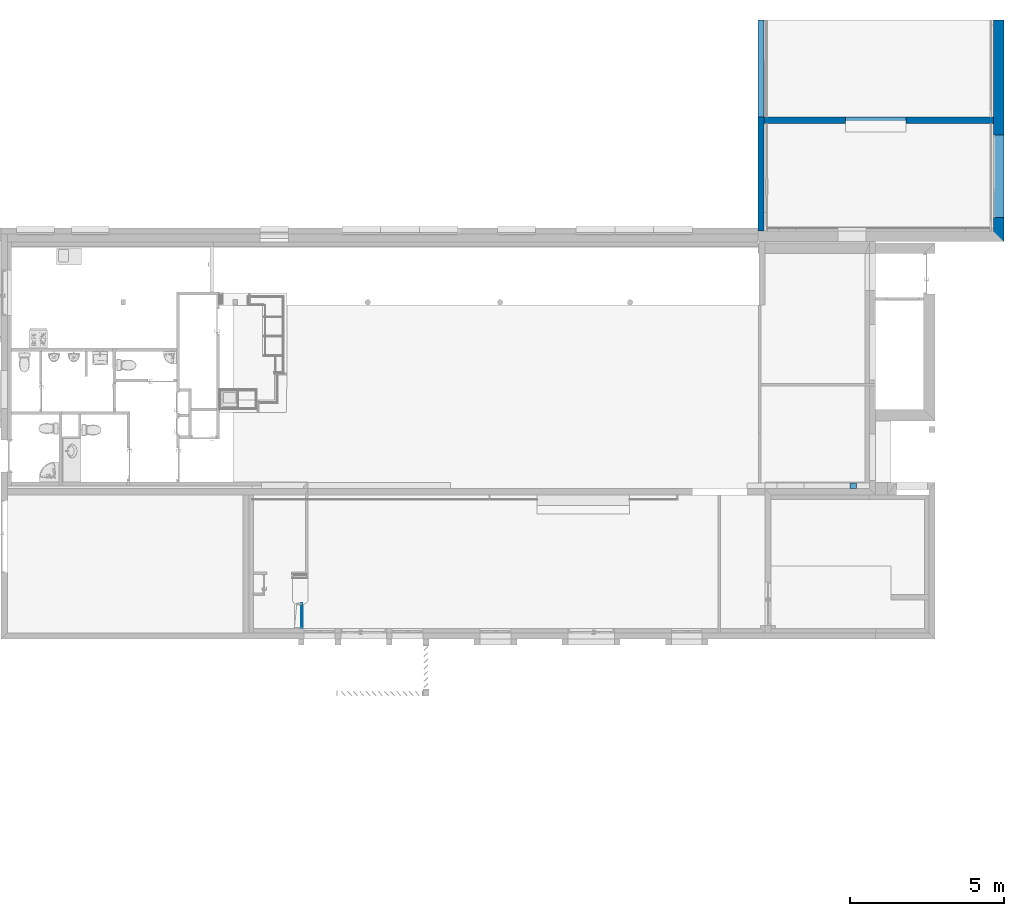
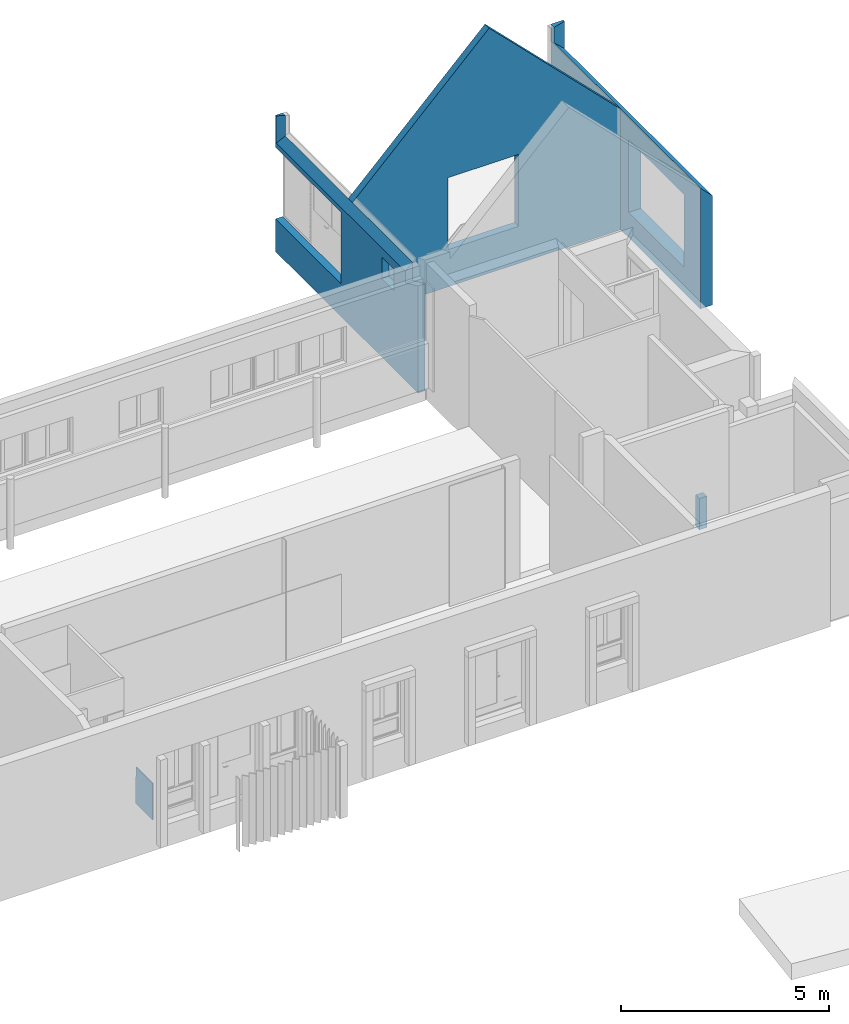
# One storey, part 13 of 34: 5 walls, 5 openings.
"""IFC2X3 building model written with IfcOpenShell, lengths in metres."""

from ifc_helpers import new_model, entity, si_unit, converted_unit, derived_unit, money_unit, direction, frame, origin_with_axes, origin_2d_with_axis, place, context, subcontext, project, spatial, polyline, rectangle, outline, extrude, boolean, clip, bounded_halfspace, faceted_brep, material, layer, layer_set, layer_usage, type_object, element, save


model = new_model("IFC2X3")

# Units and contexts
model_context = context("Model", 3, precision=1e-05, world=origin_with_axes(), true_north=direction((0.0, 1.0)))
body_context = subcontext(model_context, "Body", "Model", "MODEL_VIEW")
ifc_project = project(units=[si_unit("LENGTHUNIT", "METRE"), si_unit("AREAUNIT", "SQUARE_METRE"), si_unit("VOLUMEUNIT", "CUBIC_METRE"), converted_unit("PLANEANGLEUNIT", "DEGREE", entity("IfcPlaneAngleMeasure", 0.0174532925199), si_unit("PLANEANGLEUNIT", "RADIAN"), dimensions=[0, 0, 0, 0, 0, 0, 0]), money_unit("CHF"), converted_unit("TIMEUNIT", "Year", entity("IfcTimeMeasure", 31556926.0), si_unit("TIMEUNIT", "SECOND"), dimensions=[0, 0, 1, 0, 0, 0, 0]), si_unit("MASSUNIT", "GRAM", prefix="KILO"), si_unit("THERMODYNAMICTEMPERATUREUNIT", "DEGREE_CELSIUS"), si_unit("LUMINOUSINTENSITYUNIT", "LUMEN"), si_unit("ENERGYUNIT", "JOULE", prefix="MEGA"), derived_unit("THERMALCONDUCTANCEUNIT", [(si_unit("POWERUNIT", "WATT"), 1), (si_unit("LENGTHUNIT", "METRE"), -1), (si_unit("THERMODYNAMICTEMPERATUREUNIT", "KELVIN"), -1)]), derived_unit("SPECIFICHEATCAPACITYUNIT", [(si_unit("ENERGYUNIT", "JOULE"), 1), (si_unit("MASSUNIT", "GRAM", prefix="KILO"), -1), (si_unit("THERMODYNAMICTEMPERATUREUNIT", "KELVIN"), -1)]), derived_unit("MASSDENSITYUNIT", [(si_unit("MASSUNIT", "GRAM", prefix="KILO"), 1), (si_unit("VOLUMEUNIT", "CUBIC_METRE"), -1)])], contexts=[model_context])

# Site, building, storey
site_placement = place(None, origin_with_axes())
site = spatial("IfcSite", under=ifc_project, at=site_placement, Name="Site", CompositionType="ELEMENT")
building_placement = place(site_placement, origin_with_axes())
building = spatial("IfcBuilding", under=site, at=building_placement, Name="Bâtiment", CompositionType="ELEMENT")
storey_placement = place(building_placement, origin_with_axes())
storey = spatial("IfcBuildingStorey", under=building, at=storey_placement, Name="RDC", CompositionType="ELEMENT", Elevation=-5.32907e-15)

# Wall, opening
ifc_material_1 = material(Name="Diagonales 1167258944")
wall_type_1 = type_object("IfcWallType", Name="Diagonales 1167258944 200", PredefinedType="NOTDEFINED")
wall_1_placement = place(storey_placement, frame((1692.13729001, 194.09004191, 0.0), z_axis=(0.0, 0.0, 1.0), x_axis=(1.0, 0.0, 0.0)))
wall_1 = element("IfcWall", 1, at=wall_1_placement, inside=storey, type_object=wall_type_1, material=ifc_material_1, Name="Mur-003", context=body_context, shape_type="CSG", body=[
    boolean("DIFFERENCE", extrude(outline(polyline([(-0.2, 0.0), (7.78, 0.0), (7.78, 0.2), (-0.2, 0.2), (-0.2, 0.0)])), origin_with_axes(), (0.0, 0.0, 1.0), 7.40673131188), faceted_brep([(0.0, 0.2, 3.40000002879), (0.0, 0.2, 0.0), (-0.2, 0.2, 0.0), (-0.2, 0.2, 7.40673131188), (7.78, 0.2, 7.40673131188), (7.78, 0.2, 0.0), (7.44, 0.2, 0.0), (7.44, 0.2, 3.53999996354), (3.78999999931, 0.2, 7.18999996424), (0.0, 0.0, 3.40000002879), (0.0, 0.0, 0.0), (-0.2, 0.0, 0.0), (-0.2, 0.0, 7.40673131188), (7.78, 0.0, 7.40673131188), (7.78, 0.0, 0.0), (7.44, 0.0, 0.0), (7.44, 0.0, 3.53999996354), (3.78999999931, 0.0, 7.18999996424)], [[[0, 1, 2, 3, 4, 5, 6, 7, 8]], [[1, 0, 9, 10]], [[1, 10, 11, 2]], [[3, 2, 11, 12]], [[3, 12, 13, 4]], [[13, 14, 5, 4]], [[15, 6, 5, 14]], [[7, 6, 15, 16]], [[8, 7, 16, 17]], [[0, 8, 17, 9]], [[16, 15, 14, 13, 12, 11, 10, 9, 17]]])),
])
opening_1_placement = place(wall_1_placement, frame((3.63, 0.0, 1.09), z_axis=(0.0, 0.0, 1.0), x_axis=(1.0, 0.0, 0.0)))
element("IfcOpeningElement", 2, at=opening_1_placement, cuts=wall_1, Name="Por-005", context=body_context, shape_type="SweptSolid", body=[
    extrude(rectangle(XDim=1.96, YDim=2.11, at=origin_2d_with_axis()), frame((0.0, 0.2, 1.055), z_axis=(0.0, -1.0, 0.0), x_axis=(1.0, 0.0, 0.0)), (0.0, 0.0, -1.0), 0.2),
    extrude(rectangle(XDim=1.96, YDim=2.11, at=origin_2d_with_axis()), frame((0.0, 0.2, 1.055), z_axis=(0.0, 1.0, 0.0), x_axis=(1.0, 0.0, 0.0)), (0.0, 0.0, -1.0), 0.2),
])

# Wall, openings
wall_2_placement = place(storey_placement, frame((1692.13729001, 190.60004191, 0.0), z_axis=(0.0, 0.0, 1.0), x_axis=(0.0, 1.0, 0.0)))
wall_2 = element("IfcWall", 3, at=wall_2_placement, inside=storey, type_object=wall_type_1, material=ifc_material_1, Name="Mur-003", context=body_context, shape_type="CSG", body=[
    boolean("DIFFERENCE", clip(clip(extrude(outline(polyline([(0.0, 0.0), (6.84, 0.0), (6.84, 0.2), (0.0, 0.2), (0.0, 0.0)])), origin_with_axes(), (0.0, 0.0, 1.0), 4.0), bounded_halfspace(frame((1.36817433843, 0.0, 3.42043584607), z_axis=(-0.371390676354, 0.0, -0.928476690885), x_axis=(0.0, 1.0, 0.0)), True, origin_with_axes(), polyline([(-6.57501, -0.01), (0.39194537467, -0.01), (0.39194537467, 0.21), (-6.57501, 0.21), (-6.57501, -0.01)]))), bounded_halfspace(frame((1.17458244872, 0.0, 2.6099087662), z_axis=(-0.410400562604, 0.0, -0.911905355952), x_axis=(0.0, 1.0, 0.0)), True, origin_with_axes(), polyline([(-7.136530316, -0.01), (0.599999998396, -0.01), (0.599999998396, 0.21), (-7.136530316, 0.21), (-7.136530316, -0.01)]))), faceted_brep([(0.109292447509, 0.0, 3.40000002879), (6.71969198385, 0.0, 3.40000002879), (6.71969198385, 0.0, 4.0), (0.109292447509, 0.0, 4.0), (0.109292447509, 0.2, 3.20000002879), (6.80857507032, 0.2, 3.20000002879), (6.80857507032, 0.2, 4.0), (0.109292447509, 0.2, 4.0)], [[[0, 1, 2, 3]], [[1, 0, 4, 5]], [[6, 2, 1, 5]], [[7, 3, 2, 6]], [[0, 3, 7, 4]], [[4, 7, 6, 5]]])),
])
opening_2_placement = place(wall_2_placement, frame((1.435, 0.0, 2.31), z_axis=(0.0, 0.0, 1.0), x_axis=(1.0, 0.0, 0.0)))
element("IfcOpeningElement", 4, at=opening_2_placement, cuts=wall_2, Name="Fen-010", context=body_context, shape_type="SweptSolid", body=[
    extrude(rectangle(XDim=0.59, YDim=0.62, at=origin_2d_with_axis()), frame((0.0, 0.2, 0.31), z_axis=(0.0, -1.0, 0.0), x_axis=(1.0, 0.0, 0.0)), (0.0, 0.0, -1.0), 0.2),
    extrude(rectangle(XDim=0.59, YDim=0.62, at=origin_2d_with_axis()), frame((0.0, 0.2, 0.31), z_axis=(0.0, 1.0, 0.0), x_axis=(1.0, 0.0, 0.0)), (0.0, 0.0, -1.0), 0.2),
])
opening_3_placement = place(wall_2_placement, frame((5.265, 0.0, 0.96), z_axis=(0.0, 0.0, 1.0), x_axis=(1.0, 0.0, 0.0)))
element("IfcOpeningElement", 5, at=opening_3_placement, cuts=wall_2, Name="Por-006", context=body_context, shape_type="SweptSolid", body=[
    extrude(rectangle(XDim=3.15, YDim=2.1, at=origin_2d_with_axis()), frame((0.0, 0.2, 1.05), z_axis=(0.0, -1.0, 0.0), x_axis=(1.0, 0.0, 0.0)), (0.0, 0.0, -1.0), 0.2),
    extrude(rectangle(XDim=3.15, YDim=2.1, at=origin_2d_with_axis()), frame((0.0, 0.2, 1.05), z_axis=(0.0, 1.0, 0.0), x_axis=(1.0, 0.0, 0.0)), (0.0, 0.0, -1.0), 0.2),
])

wall_type_2 = type_object("IfcWallType", Name="Diagonales 1167258944 340", PredefinedType="NOTDEFINED")
wall_3_placement = place(storey_placement, frame((1699.91729001, 190.26004191, 0.0), z_axis=(0.0, 0.0, 1.0), x_axis=(0.0, 1.0, 0.0)))
wall_3 = element("IfcWall", 6, at=wall_3_placement, inside=storey, type_object=wall_type_2, material=ifc_material_1, Name="Mur-005", context=body_context, shape_type="CSG", body=[
    boolean("DIFFERENCE", extrude(outline(polyline([(0.0, 0.0), (7.18, 0.0), (7.18, 0.34), (0.0, 0.34), (0.0, 0.0)])), origin_with_axes(), (0.0, 0.0, 1.0), 4.0), faceted_brep([(0.0, 0.0, 3.19999996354), (7.12164777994, 0.0, 3.19999996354), (7.12164777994, 0.0, 4.0), (0.0, 0.0, 4.0), (0.0, 0.34, 3.53999996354), (7.02244903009, 0.34, 3.53999996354), (7.02244903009, 0.34, 4.0), (0.0, 0.34, 4.0)], [[[0, 1, 2, 3]], [[1, 0, 4, 5]], [[6, 2, 1, 5]], [[2, 6, 7, 3]], [[4, 0, 3, 7]], [[5, 4, 7, 6]]])),
])
opening_4_placement = place(wall_3_placement, frame((2.57, 0.0, 0.74), z_axis=(0.0, 0.0, 1.0), x_axis=(1.0, 0.0, 0.0)))
element("IfcOpeningElement", 7, at=opening_4_placement, cuts=wall_3, Name="Fen-009", context=body_context, shape_type="SweptSolid", body=[
    extrude(rectangle(XDim=1.76, YDim=2.13, at=origin_2d_with_axis()), frame((0.0, -0.34, 1.065), z_axis=(0.0, -1.0, 0.0), x_axis=(-1.0, 0.0, 0.0)), (0.0, 0.0, -1.0), 1.02),
])
opening_5_placement = place(wall_3_placement, frame((1.235, 0.0, 0.74), z_axis=(0.0, 0.0, 1.0), x_axis=(1.0, 0.0, 0.0)))
element("IfcOpeningElement", 8, at=opening_5_placement, cuts=wall_3, Name="Por-005", context=body_context, shape_type="SweptSolid", body=[
    extrude(rectangle(XDim=0.91, YDim=2.13, at=origin_2d_with_axis()), frame((0.0, -0.34, 1.065), z_axis=(0.0, -1.0, 0.0), x_axis=(-1.0, 0.0, 0.0)), (0.0, 0.0, -1.0), 1.02),
])

# Walls
ifc_layer = layer(ifc_material_1, 0.18, ventilated="UNKNOWN")
ifc_layer_set = layer_set([ifc_layer], Name="Diagonales 1167258944 0.18")
ifc_layer_usage = layer_usage(ifc_layer_set, "AXIS2", "POSITIVE", 0.0)
wall_type_3 = type_object("IfcWallType", Name="Diagonales 1167258944 180", PredefinedType="NOTDEFINED")
wall_4_placement = place(storey_placement, frame((1694.92244087, 182.25004191, 0.0), z_axis=(0.0, 0.0, 1.0), x_axis=(1.0, 0.0, 0.0)))
element("IfcWallStandardCase", 9, at=wall_4_placement, inside=storey, type_object=wall_type_3, material=ifc_layer_usage, Name="Mur-002", context=body_context, shape_type="SweptSolid", body=[
    extrude(outline(polyline([(0.0, 0.0), (0.211250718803, 0.0), (0.211250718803, 0.18), (0.0, 0.18), (0.0, 0.0)])), origin_with_axes(), (0.0, 0.0, 1.0), 0.92),
])
ifc_material_2 = material(Name="Plâtre cloisons 1818619258")
wall_type_4 = type_object("IfcWallType", Name="Plâtre cloisons 1818619258 30", PredefinedType="NOTDEFINED")
wall_5_placement = place(storey_placement, frame((1677.16751114, 177.72004191, 0.47), z_axis=(0.0, 0.0, 1.0), x_axis=(0.0, 1.0, 0.0)))
element("IfcWall", 10, at=wall_5_placement, inside=storey, type_object=wall_type_4, material=ifc_material_2, Name="Mur-010", context=body_context, shape_type="CSG", body=[
    boolean("DIFFERENCE", extrude(outline(polyline([(0.0, 0.0), (0.819, 0.0), (0.819, 0.03), (0.0, 0.03), (0.0, 0.0)])), origin_with_axes(), (0.0, 0.0, 1.0), 1.07), faceted_brep([(0.790999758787, 0.0, 0.8), (0.790999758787, 0.0, 0.77), (0.819, 0.0, 0.77), (0.819, 0.0, 1.07), (0.790999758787, 0.0, 1.07), (0.790999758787, 0.03, 0.8), (0.790999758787, 0.03, 0.77), (0.819, 0.03, 0.77), (0.819, 0.03, 1.07), (0.790999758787, 0.03, 1.07)], [[[0, 1, 2, 3, 4]], [[1, 0, 5, 6]], [[7, 2, 1, 6]], [[2, 7, 8, 3]], [[9, 4, 3, 8]], [[0, 4, 9, 5]], [[5, 9, 8, 7, 6]]])),
])

save(model, "model.ifc")
